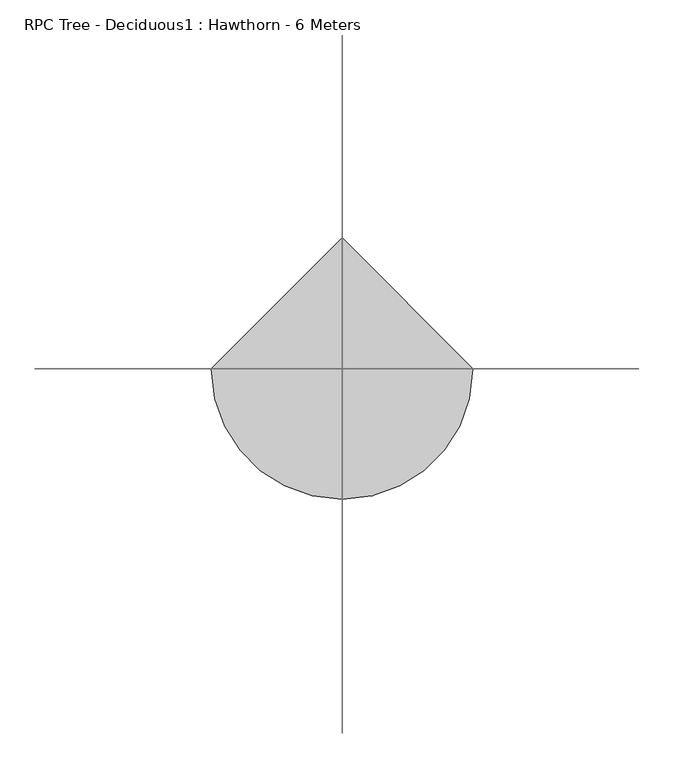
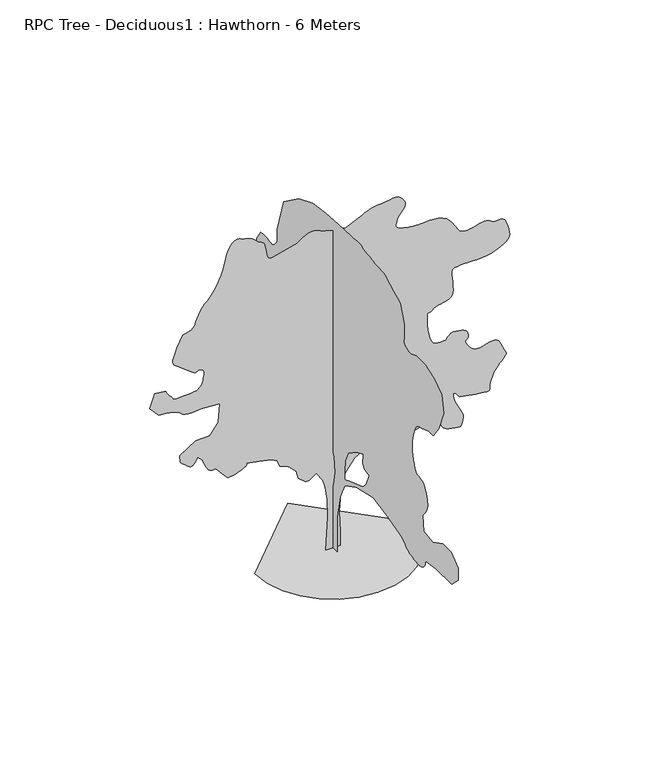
"""IFC4 building model written with IfcOpenShell, lengths in millimetres: geographic element geometry, RPC Tree - Deciduous1 : Hawthorn - 6 Meters."""

from ifc_helpers import new_model, si_unit, origin, place, context, project, spatial, triangles, source, transform, mapped, element, save


def rpc_tree_deciduous1_hawthorn_6_meters_6ab4ff8a(model_context):
    return source(origin(), model_context, "Body", "Tessellation", [
        triangles([(125.3016722, 0.0003108, 0.0152031), (-121.3314749, 0.0003108, 0.0152031), (-86.0977153, 0.0002761, 581.3634241), (-94.9063073, 0.0002583, 880.8471062), (-130.1392676, 0.0002446, 1109.8629238), (-165.3730272, 0.0002362, 1250.7967632), (-279.8797188, 0.0002268, 1409.3465332), (-394.3895897, 0.0002315, 1330.0707035), (-456.0475267, 0.000232, 1321.2626656), (-579.3634372, 0.0002257, 1426.9626091), (-614.5973694, 0.0002173, 1567.8964485), (-737.9132435, 0.00021, 1691.2123226), (-887.6551208, 0.0002063, 1752.870187), (-931.6970547, 0.0002, 1858.5701305), (-1028.5889603, 0.0001968, 1911.4201023), (-1231.1787746, 0.0001942, 1955.4620361), (-1433.7706238, 0.0001921, 1990.6940426), (-1432.1785698, 0.0001926, 1983.0680546), (-1432.3585007, 0.000193, 1974.9779961), (-1436.0825466, 0.0001936, 1965.9640114), (-1445.1225471, 0.0001942, 1955.5640648), (-1461.2485977, 0.0001949, 1943.3140858), (-1486.236462, 0.0001958, 1928.7540733), (-1521.8544914, 0.0001968, 1911.4201023), (-1561.5804096, 0.0001978, 1894.6000534), (-1598.0723682, 0.0001986, 1881.4761452), (-1631.8663811, 0.0001992, 1871.4360603), (-1663.5063103, 0.0001997, 1863.8600693), (-1693.5262802, 0.0002, 1858.1341106), (-1722.4662289, 0.0002003, 1853.6401989), (-1750.8703091, 0.0002005, 1849.7620926), (-1847.7622147, 0.0001942, 1955.4620361), (-1953.4620129, 0.0001869, 2078.7779102), (-1974.2120544, 0.0001871, 2075.2378647), (-1994.8840485, 0.0001872, 2073.0779675), (-2015.3979126, 0.0001872, 2073.6979877), (-2035.6979816, 0.0001869, 2078.4779285), (-2055.6780121, 0.0001863, 2088.7979382), (-2075.2579216, 0.0001852, 2106.0579311), (-2094.397887, 0.0001837, 2131.6178535), (-2111.737817, 0.000182, 2160.7979038), (-2126.2978294, 0.0001803, 2188.1177479), (-2138.5379253, 0.0001788, 2213.897715), (-2148.9378719, 0.0001773, 2238.4576984), (-2157.9578156, 0.0001759, 2262.0777683), (-2166.0378456, 0.0001746, 2285.0977295), (-2173.6777863, 0.0001732, 2307.7976521), (-2252.9377739, 0.0001685, 2387.0775513), (-2305.7976288, 0.0001732, 2307.7976521), (-2315.3377441, 0.0001741, 2292.9177464), (-2325.5977283, 0.0001749, 2279.4377552), (-2337.2176586, 0.0001755, 2268.7376816), (-2350.937606, 0.0001759, 2262.1777622), (-2367.4177048, 0.000176, 2261.1776779), (-2387.3776783, 0.0001756, 2267.1177223), (-2411.4975723, 0.0001748, 2281.3777531), (-2438.2175983, 0.0001736, 2301.5776829), (-2464.6574089, 0.0001723, 2323.3376919), (-2489.3774117, 0.000171, 2344.9376816), (-2511.0374268, 0.0001698, 2364.6776104), (-2528.2174828, 0.0001689, 2380.877639), (-2539.5374313, 0.0001682, 2391.8375805), (-2543.6174149, 0.000168, 2395.8775955), (-2552.4174591, 0.0001606, 2519.1973938), (-2288.177774, 0.0001506, 2686.5572365), (-2050.357988, 0.0001501, 2695.3572807), (-1909.420079, 0.0001391, 2880.3369781), (-1882.9940758, 0.0001202, 3197.4368088), (-2173.6777863, 0.0001186, 3223.8567078), (-2235.7378063, 0.000119, 3216.5568626), (-2296.4977604, 0.0001194, 3210.816806), (-2354.6376709, 0.0001195, 3208.1367371), (-2408.8576172, 0.0001194, 3210.0967918), (-2457.8174194, 0.0001189, 3218.2166451), (-2500.2375046, 0.000118, 3234.0369003), (-2534.8173706, 0.0001165, 3259.0967079), (-2569.6373383, 0.0001149, 3285.9566963), (-2612.7774376, 0.0001137, 3306.7967033), (-2662.8572296, 0.0001127, 3322.6567818), (-2718.4773811, 0.000112, 3334.4967567), (-2778.2571625, 0.0001115, 3343.3165672), (-2840.8172974, 0.0001111, 3350.1565567), (-2904.7569992, 0.0001107, 3355.9765503), (-3054.4969872, 0.0001008, 3523.336393), (-2966.4168983, 8.71e-05, 3752.3561348), (-2790.2573021, 8.82e-05, 3734.7362801), (-2778.8771828, 8.94e-05, 3714.0163239), (-2767.1973724, 9.06e-05, 3693.5164124), (-2754.8972511, 9.18e-05, 3673.4964134), (-2741.6573616, 9.3e-05, 3654.1563148), (-2727.1971977, 9.41e-05, 3635.7365089), (-2711.1973022, 9.51e-05, 3618.4962822), (-2693.3574028, 9.6e-05, 3602.6164375), (-2679.9774055, 9.69e-05, 3587.6365379), (-2673.6972656, 9.78e-05, 3573.4365326), (-2668.6374001, 9.85e-05, 3560.7765495), (-2658.9574677, 9.91e-05, 3550.436483), (-2638.797361, 9.96e-05, 3543.176461), (-2602.2972633, 9.98e-05, 3539.756321), (-2543.6174149, 9.97e-05, 3540.9565384), (-2478.5774895, 9.95e-05, 3544.7365402), (-2425.5375584, 9.93e-05, 3548.5165421), (-2382.5176552, 9.9e-05, 3552.276487), (-2347.5176113, 9.88e-05, 3556.0564888), (-2318.5376942, 9.86e-05, 3559.8364906), (-2293.5377666, 9.84e-05, 3563.6164925), (-2270.557774, 9.81e-05, 3567.3764374), (-2248.0576939, 9.71e-05, 3584.4564995), (-2226.497818, 9.61e-05, 3602.0763542), (-2206.7778008, 9.5e-05, 3620.7763756), (-2189.8177895, 9.37e-05, 3641.0762993), (-2176.5777546, 9.24e-05, 3663.5563225), (-2167.937875, 9.09e-05, 3688.7164146), (-2164.8578304, 8.92e-05, 3717.1164253), (-2161.7378174, 8.73e-05, 3748.6563606), (-2154.8978279, 8.54e-05, 3781.7363182), (-2148.2178577, 8.34e-05, 3814.6561111), (-2145.5578457, 8.15e-05, 3845.7361908), (-2150.7379074, 7.99e-05, 3873.2560226), (-2167.6378933, 7.86e-05, 3895.556115), (-2200.0978306, 7.77e-05, 3910.9162239), (-2232.6577618, 7.75e-05, 3914.3561302), (-2252.4378044, 7.79e-05, 3907.1559883), (-2267.1177223, 7.85e-05, 3897.0359665), (-2284.4377407, 7.88e-05, 3891.6961761), (-2312.0577118, 7.84e-05, 3898.8361473), (-2357.7175701, 7.68e-05, 3926.1559914), (-2429.1175724, 7.35e-05, 3981.3758766), (-2508.3375916, 6.98e-05, 4042.8759018), (-2572.1575333, 6.71e-05, 4088.3559746), (-2620.2575043, 6.49e-05, 4124.4357491), (-2652.317466, 6.29e-05, 4157.7558083), (-2668.0572029, 6.07e-05, 4194.8956924), (-2667.1572578, 5.79e-05, 4242.5358078), (-2649.3173584, 5.4e-05, 4307.2757515), (-2623.9174553, 4.99e-05, 4376.6157051), (-2600.3773224, 4.64e-05, 4434.8554642), (-2578.3574455, 4.35e-05, 4483.8553802), (-2557.5973755, 4.1e-05, 4525.4554573), (-2537.7375412, 3.89e-05, 4561.5154655), (-2518.4974365, 3.7e-05, 4593.8754089), (-2499.5773705, 3.51e-05, 4624.3752914), (-2463.8574577, 3.47e-05, 4632.1352829), (-2428.97761, 3.41e-05, 4641.115258), (-2395.7976585, 3.35e-05, 4652.5753143), (-2365.1576683, 3.25e-05, 4667.7354355), (-2337.9176159, 3.14e-05, 4687.8153145), (-2314.9177116, 2.98e-05, 4714.0552826), (-2296.977673, 2.78e-05, 4747.6953804), (-2284.1977844, 2.58e-05, 4781.6552261), (-2274.4977951, 2.41e-05, 4810.0552368), (-2265.5577885, 2.25e-05, 4835.9952232), (-2255.0777596, 2.09e-05, 4862.535173), (-2240.7377918, 1.91e-05, 4892.7949539), (-2220.2577919, 1.69e-05, 4929.8147873), (-2191.2778748, 1.41e-05, 4976.7148315), (-2161.0778286, 1.16e-05, 5019.515126), (-2136.2778889, 9.9e-06, 5047.3948196), (-2113.6378464, 8.7e-06, 5068.0150726), (-2089.897871, 7.4e-06, 5089.0951813), (-2061.8578674, 5.7e-06, 5118.3346756), (-2026.2580055, 3e-06, 5163.4545959), (-1979.8859814, -1.1e-06, 5232.1550537), (-1932.1720333, -5.9e-06, 5312.174588), (-1893.7041779, -1.03e-05, 5386.9543259), (-1862.9381779, -1.45e-05, 5457.7343079), (-1838.3361912, -1.86e-05, 5525.734227), (-1818.3561607, -2.26e-05, 5592.1941238), (-1801.4602444, -2.65e-05, 5658.3546204), (-1786.1021702, -3.05e-05, 5725.4144806), (-1767.3822372, -3.45e-05, 5792.7539749), (-1742.0362553, -3.83e-05, 5856.3942764), (-1710.9882957, -4.17e-05, 5912.6338669), (-1675.1643196, -4.43e-05, 5957.7741348), (-1635.4883984, -4.62e-05, 5988.1339096), (-1592.8863476, -4.69e-05, 5999.9942322), (-1548.2784599, -4.62e-05, 5989.6739319), (-1504.0324688, -4.51e-05, 5970.7942703), (-1461.7865009, -4.43e-05, 5957.3142792), (-1421.3926003, -4.36e-05, 5945.9940399), (-1382.6926369, -4.29e-05, 5933.5942154), (-1345.5326958, -4.19e-05, 5916.8743057), (-1309.7607513, -4.05e-05, 5892.5943924), (-1275.2207085, -3.84e-05, 5857.5540894), (-1243.3507061, -3.65e-05, 5826.0542679), (-1215.4888166, -3.55e-05, 5809.5139984), (-1191.3227772, -3.5e-05, 5800.2343323), (-1170.5488272, -3.44e-05, 5790.4744629), (-1152.8548491, -3.33e-05, 5772.5540451), (-1137.9348295, -3.13e-05, 5738.754364), (-1125.4789038, -2.79e-05, 5681.3741455), (-1114.9509127, -2.4e-05, 5616.0542953), (-1104.8848846, -2.08e-05, 5563.1941498), (-1093.5849203, -1.84e-05, 5522.3745483), (-1079.3588991, -1.66e-05, 5493.0943588), (-1060.5089596, -1.56e-05, 5474.9146545), (-1035.3429811, -1.51e-05, 5467.3546509), (-1002.1630297, -1.53e-05, 5469.9742584), (-596.9814025, -2.16e-05, 5575.674202), (-549.7794508, -2.36e-05, 5609.2744766), (-502.5034847, -2.54e-05, 5640.5545441), (-455.0715325, -2.7e-05, 5667.1941971), (-407.4095798, -2.82e-05, 5686.9342712), (-359.4376534, -2.88e-05, 5697.3940979), (-311.0817023, -2.88e-05, 5696.3342789), (-262.2637337, -2.79e-05, 5681.3741455), (-213.9597781, -2.66e-05, 5660.5341385), (-167.0418388, -2.56e-05, 5642.9142838), (-121.2796793, -2.47e-05, 5627.9942642), (-76.4421273, -2.39e-05, 5615.2345779), (-32.2977674, -2.33e-05, 5604.0742126), (11.3841491, -2.27e-05, 5594.0143616), (54.8349433, -2.21e-05, 5584.4945938), (213.3857942, -2.1e-05, 5566.8741577), (460.0175242, -2.73e-05, 5672.5741013), (496.0215039, -2.87e-05, 5695.074472), (532.8734696, -3e-05, 5716.6342026), (571.4194453, -3.11e-05, 5736.3545105), (612.5073807, -3.22e-05, 5753.3145218), (656.9853344, -3.29e-05, 5766.5544113), (705.7013288, -3.35e-05, 5775.1940002), (759.5012426, -3.36e-05, 5778.2740448), (817.8971695, -3.39e-05, 5782.434256), (878.2971165, -3.45e-05, 5792.1342453), (938.3890881, -3.51e-05, 5803.2341492), (995.8610161, -3.56e-05, 5811.5539902), (1048.4029398, -3.57e-05, 5812.9341385), (1093.7029364, -3.51e-05, 5803.2341492), (1129.4508997, -3.36e-05, 5778.2740448), (1157.3388777, -3.17e-05, 5745.7545181), (1179.9888033, -2.99e-05, 5715.5540359), (1196.4747883, -2.82e-05, 5686.7540497), (1205.8747959, -2.65e-05, 5658.3941528), (1207.2607578, -2.48e-05, 5629.5744003), (1199.7107826, -2.3e-05, 5599.3744995), (1182.2988367, -2.1e-05, 5566.8741577), (1160.7288597, -1.93e-05, 5537.2945679), (1141.3148558, -1.79e-05, 5514.6343231), (1124.0568975, -1.68e-05, 5496.1546371), (1108.9568745, -1.58e-05, 5479.0545181), (1096.0149319, -1.47e-05, 5460.5544846), (1085.2288897, -1.34e-05, 5437.9145874), (1076.5988932, -1.16e-05, 5408.31465), (1067.5089684, -9.7e-06, 5376.3945053), (1057.8029474, -8e-06, 5348.1747162), (1051.1769711, -6.5e-06, 5323.0343903), (1051.3309587, -5.2e-06, 5300.3549606), (1061.9629406, -3.9e-06, 5279.5347198), (1086.7689119, -2.7e-06, 5259.9347534), (1129.4508997, -1.6e-06, 5240.9545166), (1183.1208069, -6e-07, 5224.6549301), (1237.4087723, 1e-07, 5212.9748291), (1290.7726662, 5e-07, 5205.13461), (1341.6707222, 8e-07, 5200.394783), (1388.5626274, 9e-07, 5197.9548157), (1429.9085049, 1e-06, 5197.0548706), (1464.1665882, 1e-06, 5196.9147629), (1502.8665516, 9e-07, 5199.0547485), (1555.8964542, 6e-07, 5203.1946121), (1619.2484013, 5e-07, 5205.9345612), (1688.9182766, 6e-07, 5203.914917), (1760.9002201, 1.2e-06, 5193.7149582), (1831.1861916, 2.5e-06, 5171.9546585), (1895.7741096, 4.7e-06, 5135.2551544), (1949.6500362, 7.6e-06, 5086.7546265), (1992.4340527, 1.07e-05, 5034.0747025), (2027.0579567, 1.39e-05, 4980.6349411), (2056.4379948, 1.69e-05, 4929.8147873), (2083.497971, 1.96e-05, 4885.0151962), (2111.1778221, 2.17e-05, 4849.5952652), (2142.3978642, 2.31e-05, 4826.9751343), (2177.4178196, 2.37e-05, 4815.7150658), (2214.2577221, 2.4e-05, 4811.4153282), (2252.6577038, 2.39e-05, 4812.8751228), (2292.2776691, 2.35e-05, 4818.955275), (2332.8176365, 2.3e-05, 4828.5151566), (2373.997681, 2.23e-05, 4840.3751884), (2415.4576504, 2.15e-05, 4853.3950333), (2453.1174156, 2.1e-05, 4860.715226), (2490.1375397, 2.07e-05, 4866.6552704), (2525.9373894, 2.05e-05, 4869.8152519), (2559.8975258, 2.06e-05, 4868.8150223), (2591.3772903, 2.1e-05, 4862.2552483), (2619.777301, 2.18e-05, 4848.7752571), (2644.4772469, 2.31e-05, 4826.9751343), (2672.0174263, 2.4e-05, 4810.9752388), (2707.2373695, 2.41e-05, 4810.0752937), (2747.0971458, 2.37e-05, 4815.6551857), (2788.4972351, 2.35e-05, 4819.0552689), (2828.3573021, 2.4e-05, 4811.695253), (2863.5772453, 2.56e-05, 4784.9152016), (2891.1171341, 2.88e-05, 4730.075235), (2912.8169724, 3.29e-05, 4661.5954033), (2930.9772011, 3.66e-05, 4599.5753517), (2943.1171577, 3.99e-05, 4544.0354279), (2946.7971657, 4.28e-05, 4494.9555748), (2939.5170868, 4.54e-05, 4452.3555588), (2918.8570107, 4.75e-05, 4416.2156136), (2882.2970329, 4.93e-05, 4386.5555054), (2838.617141, 5.09e-05, 4360.2556572), (2796.0171249, 5.24e-05, 4334.7357033), (2751.257357, 5.38e-05, 4310.7557716), (2701.0973373, 5.51e-05, 4289.0756996), (2642.317495, 5.62e-05, 4270.4756721), (2571.67733, 5.71e-05, 4255.7358742), (2485.9375053, 5.77e-05, 4245.6158524), (2402.1176216, 5.8e-05, 4240.515873), (2336.3177135, 5.81e-05, 4239.2557755), (2283.9377712, 5.8e-05, 4240.3158852), (2240.3177593, 5.79e-05, 4242.1358322), (2200.8778702, 5.79e-05, 4243.175885), (2160.9778347, 5.79e-05, 4241.9157875), (2115.9778198, 5.82e-05, 4236.8158081), (2072.5979095, 5.86e-05, 4231.3957901), (2039.7179398, 5.88e-05, 4227.97565), (2015.8980274, 5.9e-05, 4223.1756523), (1999.8039516, 5.96e-05, 4213.5957138), (1990.0199558, 6.07e-05, 4195.8558083), (1985.166037, 6.24e-05, 4166.5558525), (1983.8560879, 6.51e-05, 4122.3158203), (1987.4000576, 6.86e-05, 4062.8560776), (1994.9500328, 7.27e-05, 3994.0160934), (2001.877953, 7.7e-05, 3921.4559875), (2003.5779945, 8.12e-05, 3850.9161072), (1995.4120686, 8.5e-05, 3788.0763382), (1972.7619976, 8.79e-05, 3738.6363327), (1931.0061161, 8.97e-05, 3708.3163811), (1880.2881363, 9.07e-05, 3692.3161949), (1833.7302223, 9.14e-05, 3680.6363846), (1791.1781685, 9.2e-05, 3671.0962692), (1752.4782051, 9.25e-05, 3661.5762108), (1717.4762718, 9.32e-05, 3649.8964005), (1686.0162735, 9.42e-05, 3633.896505), (1657.9483646, 9.55e-05, 3611.4164818), (1633.6543533, 9.66e-05, 3593.8762733), (1613.5224426, 9.69e-05, 3588.6763), (1597.3943573, 9.69e-05, 3587.616481), (1585.1203972, 9.72e-05, 3582.5563248), (1576.5424324, 9.83e-05, 3565.3364456), (1571.5084373, 0.0001005, 3527.756472), (1569.864497, 0.0001044, 3461.6764938), (1573.4604984, 0.0001095, 3377.1767097), (1583.5284885, 0.0001145, 3292.4967041), (1598.9864113, 0.0001193, 3211.8368019), (1618.7603497, 0.0001236, 3139.3368668), (1641.7704277, 0.0001272, 3079.1768761), (1666.9363335, 0.0001298, 3035.4969841), (1693.1822605, 0.0001312, 3012.4571114), (1723.330275, 0.0001317, 3003.6570671), (1758.5641708, 0.000132, 2999.1570511), (1795.3382343, 0.0001321, 2997.8969536), (1830.1102398, 0.000132, 2998.7968987), (1859.332148, 0.0001319, 3000.7770103), (1879.4660934, 0.0001318, 3002.757122), (1886.9660717, 0.0001317, 3003.6570671), (1889.7641567, 0.0001313, 3010.3970627), (1898.5720493, 0.0001303, 3027.4768341), (1914.0061363, 0.000129, 3050.096965), (1936.6820778, 0.0001276, 3073.4969902), (1967.2159698, 0.0001264, 3092.8969688), (2006.2179497, 0.0001258, 3103.4969032), (2054.3179207, 0.000126, 3100.5369095), (2103.9179455, 0.0001266, 3090.4168877), (2146.8778233, 0.0001271, 3081.0770508), (2183.0578823, 0.0001278, 3070.037027), (2212.2978127, 0.0001287, 3054.8370827), (2234.4777088, 0.00013, 3032.996846), (2249.3977283, 0.0001318, 3002.076931), (2256.9177635, 0.0001344, 2959.6170227), (2254.0977322, 0.0001366, 2921.217041), (2241.8577816, 0.0001379, 2899.457032), (2225.9378231, 0.0001387, 2887.2772522), (2212.0177425, 0.0001393, 2877.537149), (2205.8178303, 0.0001401, 2863.1772697), (2212.9977699, 0.0001417, 2837.1172325), (2239.2977634, 0.0001443, 2792.25718), (2275.0777016, 0.0001472, 2743.8171135), (2307.5976643, 0.0001492, 2710.0174324), (2337.9776413, 0.0001505, 2688.2373665), (2367.297654, 0.0001513, 2675.8773651), (2396.5976097, 0.0001516, 2670.2774162), (2426.9775867, 0.0001517, 2668.8373878), (2459.4975494, 0.0001517, 2668.9373817), (2499.7974152, 0.0001512, 2676.6372025), (2549.9574348, 0.0001502, 2693.8971954), (2605.7973404, 0.0001491, 2711.9173164), (2663.1973251, 0.0001485, 2721.9373444), (2717.9774117, 0.0001489, 2715.157235), (2765.9770981, 0.0001509, 2682.7972916), (2803.037336, 0.0001548, 2616.0775269), (2832.277121, 0.0001592, 2542.2773804), (2857.9770058, 0.0001623, 2490.5174583), (2877.6772568, 0.0001645, 2454.7574318), (2888.8972115, 0.000166, 2429.0376354), (2889.1971931, 0.0001673, 2407.297538), (2876.0570068, 0.0001687, 2383.5776196), (2847.0770897, 0.0001706, 2351.8376965), (2812.9971931, 0.0001727, 2316.8376526), (2785.5773552, 0.0001745, 2286.7977711), (2763.6571815, 0.0001762, 2260.8776962), (2746.1573776, 0.0001776, 2238.2577106), (2731.9771385, 0.0001789, 2218.1178062), (2720.0174034, 0.0001802, 2199.6378296), (2709.1573105, 0.0001814, 2181.9578041), (2706.4571846, 0.0001811, 2183.897802), (2702.7771767, 0.000181, 2182.7778122), (2697.1571709, 0.0001813, 2175.6177841), (2688.6172852, 0.0001822, 2159.377787), (2676.1773468, 0.0001838, 2131.0378017), (2658.8374168, 0.0001864, 2087.5578976), (2635.6774933, 0.00019, 2025.9379669), (2618.2175125, 0.0001938, 1963.0380272), (2613.5372749, 0.0001965, 1916.4780785), (2613.9372505, 0.0001985, 1884.2501038), (2611.7373848, 0.0001996, 1864.3481209), (2599.1974525, 0.0002002, 1854.7702171), (2568.6373993, 0.0002003, 1853.5101196), (2512.3574043, 0.0002, 1858.5701305), (2443.7176987, 0.0001995, 1866.3761948), (2380.6176258, 0.000199, 1874.6461842), (2322.1376198, 0.0001985, 1883.3001617), (2267.3576786, 0.000198, 1892.2621147), (2215.3578003, 0.0001974, 1901.4560303), (2165.2178375, 0.0001969, 1910.8041515), (2115.9778198, 0.0001963, 1920.2281403), (2084.2979221, 0.000194, 1959.0060059), (2054.9979664, 0.000192, 1992.6199425), (2030.4580399, 0.0001906, 2015.917939), (2013.098053, 0.0001901, 2023.7180443), (2005.2979477, 0.0001909, 2010.877985), (2009.4379566, 0.0001932, 1972.2300533), (2027.8980217, 0.0001974, 1902.6120644), (2057.4379337, 0.0002022, 1821.9241116), (2090.4979797, 0.0002063, 1752.1761887), (2123.1179363, 0.00021, 1691.3662376), (2151.2577885, 0.0002132, 1637.4884216), (2170.9378372, 0.0002161, 1588.5424267), (2178.1177769, 0.0002188, 1542.5244507), (2168.8378201, 0.0002215, 1497.4285114), (2155.0377903, 0.0002239, 1457.3944725), (2148.0377815, 0.0002257, 1427.3726131), (2142.7179028, 0.0002269, 1406.5985905), (2134.0178524, 0.0002277, 1394.2965797), (2116.8379417, 0.0002279, 1389.7006393), (2086.0979576, 0.0002278, 1392.0365433), (2036.6979206, 0.0002273, 1400.5366058), (1981.4940228, 0.0002266, 1411.5285221), (1935.8340191, 0.000226, 1422.6746441), (1898.4941471, 0.0002252, 1435.2065826), (1868.244104, 0.0002243, 1450.35653), (1843.8482094, 0.0002232, 1469.3606026), (1824.0741257, 0.0002218, 1493.4485218), (1807.690242, 0.0002199, 1523.8545147), (1797.340147, 0.000218, 1556.6484432), (1793.9262566, 0.0002162, 1586.6684132), (1793.5922653, 0.0002146, 1613.2983284), (1792.4882629, 0.0002133, 1635.9223835), (1786.7602695, 0.0002122, 1653.924337), (1772.5602642, 0.0002114, 1666.6863487), (1746.0322323, 0.000211, 1673.5963921), (1714.6242657, 0.0002108, 1676.6002785), (1687.8402901, 0.0002107, 1678.2183483), (1664.9084049, 0.0002107, 1678.6803841), (1645.056419, 0.0002107, 1678.2183483), (1627.5183907, 0.0002108, 1677.0623142), (1611.5183498, 0.0002109, 1675.4443897), (1596.2903549, 0.000211, 1673.5963921), (1384.8906132, 0.0002157, 1594.320417), (1243.9567738, 0.00021, 1691.2123226), (1087.3329037, 0.0002129, 1634.2184177), (1110.9088629, 0.0002139, 1619.9223427), (1131.188875, 0.0002148, 1605.1283329), (1144.8768476, 0.0002159, 1589.3384537), (1148.6768337, 0.000217, 1572.0524448), (1139.2928862, 0.0002182, 1552.772517), (1113.4308746, 0.0002195, 1531.0004448), (1067.7929626, 0.000221, 1506.2365494), (1018.4869606, 0.0002223, 1484.5125847), (980.7350498, 0.0002231, 1471.568462), (949.9190529, 0.0002234, 1466.48447), (921.4150515, 0.0002232, 1468.3324677), (890.5991272, 0.0002228, 1476.192453), (852.8491785, 0.000222, 1489.1345409), (803.5431765, 0.000221, 1506.2365494), (574.5254331, 0.0002168, 1576.7044865), (363.125655, 0.0002236, 1462.196505), (204.5757942, 0.0002362, 1250.7967632), (151.7268489, 0.0002451, 1101.0548859), (134.1096648, 0.0002562, 916.0810747), (107.6852966, 0.0002745, 607.789391), (125.3016722, 0.0002966, 237.8397703), (-9.68e-05, -124.0064751, 0.0126444), (-9.68e-05, 131.4368719, 0.0126596), (-7.97e-05, 139.9516592, 553.4734477), (-6.83e-05, 182.5254141, 834.4611294), (-5.69e-05, 318.7616841, 1115.4489201), (-5.13e-05, 446.4835393, 1302.7726604), (-4.56e-05, 667.867301, 1456.038596), (-3.42e-05, 1051.0329391, 1626.334306), (-2.28e-05, 1502.3164398, 1677.4223213), (-2.28e-05, 1766.2741653, 1515.6425159), (-2.28e-05, 1962.114101, 1490.0985809), (-1.71e-05, 2072.7978973, 1702.9682911), (-1.14e-05, 2251.6177963, 1728.5122261), (-5.7e-06, 2626.2574287, 1754.0563065), (0.0, 2847.6572868, 1771.0862263), (5.7e-06, 2958.337159, 1856.2340813), (5.7e-06, 2949.8370964, 1992.4699516), (1.14e-05, 3086.0569794, 2077.617952), (1.14e-05, 3124.1767456, 2085.0179363), (1.14e-05, 3161.0169388, 2093.0178841), (1.14e-05, 3195.31688, 2102.197847), (1.71e-05, 3225.8167625, 2113.1579338), (1.71e-05, 3251.2768364, 2126.5178741), (1.71e-05, 3270.3768333, 2142.8578651), (1.71e-05, 3281.8967697, 2162.7578133), (1.71e-05, 3288.6966454, 2186.637751), (1.71e-05, 3294.6166328, 2214.0978481), (1.71e-05, 3299.776783, 2244.5377052), (2.28e-05, 3304.3366791, 2277.357795), (2.28e-05, 3308.4567764, 2311.9577179), (2.28e-05, 3312.2966583, 2347.7577129), (2.28e-05, 3315.9566093, 2384.1576714), (2.85e-05, 3171.2168976, 2562.9575134), (2.28e-05, 2856.1570587, 2579.9974617), (1.71e-05, 2668.8373878, 2443.7575218), (1.71e-05, 2657.3973885, 2441.4974854), (1.71e-05, 2627.3373047, 2436.0975243), (1.71e-05, 2585.0573273, 2429.6775673), (1.14e-05, 2536.9774132, 2424.2975178), (1.14e-05, 2489.4774055, 2422.0376266), (1.14e-05, 2448.9976089, 2424.9775635), (1.14e-05, 2421.9175758, 2435.2375477), (1.14e-05, 2403.4175423, 2452.5575661), (1.14e-05, 2384.4775646, 2474.8175446), (1.14e-05, 2365.1576683, 2501.1374496), (1.14e-05, 2345.5577019, 2530.757444), (1.71e-05, 2325.7176338, 2562.8374626), (1.71e-05, 2305.7377487, 2596.5574974), (1.71e-05, 2285.6777813, 2631.0774834), (2.28e-05, 2243.0978222, 2843.957222), (2.85e-05, 2421.9175758, 2980.1771049), (3.99e-05, 2558.1575157, 3210.0767349), (3.99e-05, 2336.7576576, 3414.4366447), (3.42e-05, 2106.8578823, 3337.7965553), (2.85e-05, 1962.114101, 3218.5968544), (2.85e-05, 1800.3322609, 3329.2967834), (3.42e-05, 1800.3322609, 3516.6164543), (4.56e-05, 1953.5980511, 3686.9162338), (4.56e-05, 1986.3419827, 3705.1363426), (4.56e-05, 2018.4980141, 3723.1962868), (4.56e-05, 2049.437986, 3740.9763062), (4.56e-05, 2078.6178909, 3758.2961792), (4.56e-05, 2105.3979424, 3775.0361458), (5.13e-05, 2129.1979431, 3791.016275), (5.13e-05, 2149.4378414, 3806.1162254), (5.13e-05, 2165.1977806, 3827.1762772), (5.13e-05, 2176.4978176, 3859.8362022), (5.13e-05, 2184.0778782, 3902.1961166), (5.69e-05, 2188.6578312, 3952.2759087), (5.69e-05, 2191.0178616, 4008.1960419), (5.69e-05, 2191.8977497, 4067.956057), (5.69e-05, 2192.0178005, 4129.6758362), (6.26e-05, 2081.3178715, 4299.9756157), (6.26e-05, 2077.3179703, 4300.8956177), (6.26e-05, 2066.0379902, 4303.1556541), (6.26e-05, 2048.4780155, 4306.015654), (6.26e-05, 2025.7179222, 4308.7157799), (6.26e-05, 1998.7800316, 4310.51567), (6.26e-05, 1968.7160236, 4310.6956009), (6.26e-05, 1936.5700207, 4308.4957352), (6.26e-05, 1902.4120766, 4303.5556297), (5.69e-05, 1866.6141163, 4297.1156158), (5.69e-05, 1830.6681999, 4290.8357666), (5.69e-05, 1796.0642075, 4286.3357506), (5.69e-05, 1764.2882401, 4285.2756409), (5.69e-05, 1736.8322124, 4289.2756874), (5.69e-05, 1715.1862953, 4299.9756157), (5.69e-05, 1697.6843113, 4315.3156677), (5.69e-05, 1681.5242512, 4331.9957542), (5.69e-05, 1666.480402, 4349.7955399), (5.69e-05, 1652.3303936, 4368.4955612), (5.69e-05, 1638.8504025, 4387.8557167), (5.69e-05, 1625.8163143, 4407.6556709), (5.69e-05, 1613.0083752, 4427.6954361), (6.83e-05, 1604.4923252, 4640.5554085), (7.97e-05, 1425.6826, 5236.594899), (8.54e-05, 991.4290192, 5551.6547379), (8.54e-05, 582.7194097, 5721.9344604), (7.97e-05, 208.0697851, 5773.0342484), (7.4e-05, -158.0654427, 5798.5739685), (6.83e-05, -515.6854926, 5815.6142075), (6.83e-05, -547.0394654, 5817.3943314), (6.83e-05, -593.435398, 5821.5539612), (6.83e-05, -649.0673584, 5826.333902), (6.83e-05, -708.1253088, 5829.8941498), (6.83e-05, -764.7992477, 5830.4941132), (6.26e-05, -813.2811722, 5826.333902), (6.26e-05, -847.7631517, 5815.6142075), (6.26e-05, -883.2371492, 5801.9941086), (6.26e-05, -934.4990639, 5790.1942474), (6.26e-05, -995.4430183, 5779.8541809), (6.26e-05, -1059.9609552, 5770.7140411), (5.69e-05, -1121.9468519, 5762.4744278), (5.69e-05, -1175.2948311, 5754.8341965), (5.69e-05, -1213.8967627, 5747.4945282), (5.69e-05, -1249.2967094, 5742.4140244), (5.69e-05, -1294.8247444, 5740.3345001), (5.69e-05, -1347.0546959, 5738.9944656), (5.13e-05, -1402.562645, 5736.1742889), (5.13e-05, -1457.9206032, 5729.6142242), (5.13e-05, -1509.7045063, 5717.0940582), (5.13e-05, -1554.4884007, 5696.3941589), (5.13e-05, -1597.8563931, 5670.1143677), (4.56e-05, -1647.0343506, 5642.4741943), (4.56e-05, -1701.0522743, 5613.7346695), (4.56e-05, -1758.9422001, 5584.0946182), (3.99e-05, -1819.7381985, 5553.7743759), (3.99e-05, -1882.4680904, 5523.0146255), (3.99e-05, -1946.1679813, 5492.0345398), (2.85e-05, -2065.3780014, 5194.0347061), (1.71e-05, -2056.8578819, 4921.5548264), (1.71e-05, -2049.8779301, 4908.7149124), (1.71e-05, -2044.8379761, 4895.5151367), (1.71e-05, -2043.6780178, 4881.5549423), (1.71e-05, -2048.3179962, 4866.4951057), (1.71e-05, -2060.7179661, 4849.93507), (1.71e-05, -2082.7779568, 4831.5152641), (1.71e-05, -2116.4578777, 4810.855188), (1.71e-05, -2156.8578827, 4794.43526), (1.14e-05, -2197.6978317, 4787.8153152), (1.14e-05, -2238.8977879, 4789.4152176), (1.14e-05, -2280.3977257, 4797.5551277), (1.14e-05, -2322.1376198, 4810.6150864), (1.14e-05, -2364.0176216, 4826.9550774), (1.14e-05, -2405.9576488, 4844.9150276), (5.7e-06, -2669.9172638, 4844.9150276), (0.0, -2933.8770241, 4759.7751663), (-5.7e-06, -3146.7567627, 4606.5153351), (-1.71e-05, -3197.8367844, 4308.4957352), (-2.28e-05, -3053.0970726, 3950.8759941), (-2.85e-05, -2899.8171844, 3737.9962555), (-2.85e-05, -2872.2371819, 3737.8561478), (-2.85e-05, -2843.3970818, 3736.8163857), (-2.85e-05, -2812.0173111, 3733.976152), (-2.85e-05, -2776.837191, 3728.4761971), (-2.85e-05, -2736.5972054, 3719.3761711), (-2.85e-05, -2690.0372566, 3705.8362999), (-2.28e-05, -2635.8574242, 3686.9162338), (-2.28e-05, -2581.5174271, 3668.6964157), (-2.28e-05, -2534.7775475, 3655.8364449), (-2.28e-05, -2494.8773666, 3645.3562706), (-2.28e-05, -2461.0974518, 3634.2764236), (-2.28e-05, -2432.6775295, 3619.6363289), (-2.28e-05, -2408.8775288, 3598.4364601), (-2.28e-05, -2388.9376122, 3567.696476), (-2.85e-05, -2369.4175827, 3523.5965515), (-2.85e-05, -2348.577721, 3467.1165688), (-2.85e-05, -2328.1576012, 3402.5966698), (-2.85e-05, -2309.9976631, 3334.356649), (-3.42e-05, -2295.8377716, 3266.7165916), (-3.42e-05, -2287.4977283, 3203.9768166), (-3.42e-05, -2286.7576572, 3150.4768845), (-3.99e-05, -2293.8377483, 3095.7569687), (-3.99e-05, -2306.8577385, 3030.7769234), (-3.99e-05, -2324.5177071, 2961.917173), (-4.56e-05, -2345.4376511, 2895.5770363), (-4.56e-05, -2368.2975929, 2838.1971085), (-5.13e-05, -2391.7576435, 2796.1371758), (-5.13e-05, -2414.477623, 2775.837252), (-5.13e-05, -2441.5375992, 2770.1771324), (-5.13e-05, -2476.6374916, 2765.997155), (-5.13e-05, -2516.3574509, 2760.6373077), (-5.13e-05, -2557.2773369, 2751.3971741), (-5.13e-05, -2595.9374771, 2735.6173233), (-5.69e-05, -2628.9572639, 2710.5973389), (-5.69e-05, -2652.8973724, 2673.6574425), (-5.69e-05, -2671.4572861, 2630.8373817), (-5.69e-05, -2689.8773827, 2589.6372803), (-6.26e-05, -2706.9571541, 2549.6574532), (-6.26e-05, -2721.5173119, 2510.3973495), (-6.26e-05, -2732.337291, 2471.4575752), (-6.26e-05, -2738.2372215, 2432.3576363), (-6.83e-05, -2738.0372337, 2392.6575886), (-6.83e-05, -2731.1571304, 2353.7576374), (-6.83e-05, -2718.4773811, 2317.0976658), (-6.83e-05, -2700.9572296, 2282.2977551), (-6.83e-05, -2679.557373, 2248.9776958), (-6.83e-05, -2655.2574028, 2216.7777718), (-6.83e-05, -2629.0174347, 2185.3378304), (-6.83e-05, -2601.7972939, 2154.257896), (-7.97e-05, -2618.8372421, 1881.7781616), (-8.54e-05, -2891.3171219, 1847.7181767), (-8.54e-05, -3172.2967735, 1992.4699516), (-8.54e-05, -3419.2165855, 1992.4699516), (-9.68e-05, -3615.0563759, 1830.6901463), (-0.0001025, -3623.5764954, 1626.334306), (-0.0001025, -3427.736705, 1439.0105656), (-9.68e-05, -2967.9371544, 1430.4945156), (-9.68e-05, -2678.4373833, 1387.9206608), (-9.68e-05, -2670.7773857, 1351.6526711), (-9.68e-05, -2660.8573517, 1316.7247158), (-9.68e-05, -2646.4974724, 1284.4787189), (-9.68e-05, -2625.4173637, 1256.2526802), (-9.68e-05, -2595.3973938, 1233.3888142), (-9.68e-05, -2554.2173492, 1217.228754), (-9.68e-05, -2499.6375412, 1209.1107903), (-9.68e-05, -2441.0975098, 1207.9187845), (-9.68e-05, -2388.9576691, 1211.0467913), (-9.68e-05, -2342.3376949, 1217.6007517), (-9.11e-05, -2300.3376423, 1226.6867523), (-9.11e-05, -2262.0577114, 1237.410807), (-9.11e-05, -2226.6177235, 1248.8787117), (-9.11e-05, -2193.0978218, 1260.1988056), (-9.11e-05, -2158.857906, 1275.838694), (-9.11e-05, -2122.5378845, 1298.7766834), (-8.54e-05, -2085.1779556, 1325.8846218), (-8.54e-05, -2047.8178814, 1354.0366825), (-8.54e-05, -2011.4980053, 1380.1006439), (-8.54e-05, -1977.2740768, 1400.9546036), (-8.54e-05, -1946.1679813, 1413.4645958), (-7.4e-05, -1545.9743855, 1524.1584206), (-6.83e-05, -1171.3228352, 1592.2763557), (-6.26e-05, -668.9513191, 1473.0685158), (-6.26e-05, -336.8756584, 1294.2586452), (-6.83e-05, -209.1537851, 1030.3009924), (-7.97e-05, -124.0064751, 621.5913465), (-9.11e-05, -124.0064751, 280.9997267), (5.7e-06, 276.1877203, 1711.4823063), (5.7e-06, 301.7316916, 1566.730386), (0.0, 276.1877203, 1379.4066456), (-1.14e-05, 174.0106177, 1192.0807978), (-1.71e-05, 54.803945, 928.1230722), (-1.71e-05, -21.8291772, 1132.4768778), (-5.7e-06, -64.4029366, 1370.8905956), (0.0, -38.8585611, 1626.334306), (5.7e-06, 54.803945, 1822.1742416), (1.14e-05, 139.9516592, 1890.2921768), (-2.85e-05, -873.3071594, 2179.7977615), (-2.85e-05, -677.4672964, 2094.6378433), (-2.85e-05, -447.5675574, 1941.3820816), (-3.42e-05, -362.4196298, 1754.0563065), (-3.99e-05, -345.3896373, 1558.2163708), (-4.56e-05, -345.3896373, 1413.4645958), (-4.56e-05, -481.6275061, 1464.5545006), (-4.56e-05, -711.5253193, 1541.186451), (-4.56e-05, -873.3071594, 1609.3064209), (-4.56e-05, -958.4550144, 1702.9682911), (-3.99e-05, -1043.6029421, 1898.8080814), (-3.42e-05, -915.8810869, 1932.8660316), (-3.42e-05, -864.7911095, 2018.0179562), (-1299.4087669, 0.0, 7.75e-05), (-1265.056794, -297.7376949, 5.97e-05), (-1167.2228674, -571.163429, 4.34e-05), (-1013.7389946, -812.4411798, 2.9e-05), (-812.4411798, -1013.7389946, 1.7e-05), (-571.163429, -1167.2208326, 7.9e-06), (-297.7376949, -1265.056794, 2e-06), (5.13e-05, -1299.4087669, 0.0), (297.7376949, -1265.056794, 2e-06), (571.163429, -1167.2208326, 7.9e-06), (812.4411798, -1013.7389946, 1.7e-05), (1013.7389946, -812.4411798, 2.9e-05), (1167.2208326, -571.163429, 4.34e-05), (1265.056794, -297.7376949, 5.97e-05), (1299.4087669, 0.0001136, 7.75e-05), (-0.0001765, 1299.4087669, 0.0001549)], [[403, 404, 405], [1, 2, 3], [491, 1, 3], [490, 491, 3], [490, 3, 4], [489, 490, 4], [489, 4, 5], [488, 489, 5], [84, 85, 86], [84, 86, 87], [83, 84, 87], [83, 87, 88], [83, 88, 89], [83, 89, 90], [82, 83, 90], [82, 90, 91], [82, 91, 92], [81, 82, 92], [81, 92, 93], [81, 93, 94], [81, 94, 95], [81, 95, 96], [81, 96, 97], [80, 81, 97], [80, 97, 98], [79, 80, 98], [79, 98, 99], [78, 79, 99], [78, 99, 100], [77, 78, 100], [77, 100, 101], [488, 5, 6], [487, 488, 6], [76, 77, 101], [76, 101, 102], [75, 76, 102], [74, 75, 102], [73, 74, 102], [73, 102, 103], [72, 73, 103], [72, 103, 104], [71, 72, 104], [71, 104, 105], [70, 71, 105], [70, 105, 106], [70, 106, 107], [69, 70, 107], [68, 69, 107], [68, 107, 108], [68, 108, 109], [68, 109, 110], [68, 110, 111], [68, 111, 112], [63, 64, 65], [62, 63, 65], [61, 62, 65], [60, 61, 65], [59, 60, 65], [58, 59, 65], [57, 58, 65], [56, 57, 65], [55, 56, 65], [54, 55, 65], [53, 54, 65], [52, 53, 65], [51, 52, 65], [50, 51, 65], [49, 50, 65], [48, 49, 65], [48, 65, 66], [47, 48, 66], [30, 31, 32], [467, 468, 469], [487, 6, 7], [486, 487, 7], [68, 112, 113], [8, 9, 10], [7, 8, 10], [7, 10, 11], [29, 30, 32], [414, 415, 416], [414, 416, 417], [413, 414, 417], [413, 417, 418], [412, 413, 418], [412, 418, 419], [141, 142, 143], [411, 412, 419], [411, 419, 420], [12, 13, 14], [28, 29, 32], [424, 425, 426], [27, 28, 32], [442, 443, 444], [441, 442, 444], [441, 444, 445], [440, 441, 445], [440, 445, 446], [439, 440, 446], [439, 446, 447], [438, 439, 447], [437, 438, 447], [436, 437, 447], [436, 447, 448], [435, 436, 448], [435, 448, 449], [435, 449, 450], [435, 450, 451], [435, 451, 452], [435, 452, 453], [435, 453, 454], [435, 454, 455], [435, 455, 456], [434, 435, 456], [434, 456, 457], [433, 434, 457], [433, 457, 458], [432, 433, 458], [432, 458, 459], [431, 432, 459], [431, 459, 460], [431, 460, 461], [430, 431, 461], [430, 461, 462], [430, 462, 463], [430, 463, 464], [411, 420, 421], [410, 411, 421], [410, 421, 422], [409, 410, 422], [409, 422, 423], [408, 409, 423], [408, 423, 424], [408, 424, 426], [408, 426, 427], [408, 427, 428], [407, 408, 428], [430, 464, 465], [406, 407, 428], [473, 474, 475], [472, 473, 475], [472, 475, 476], [471, 472, 476], [471, 476, 477], [470, 471, 477], [470, 477, 478], [470, 478, 479], [470, 479, 480], [470, 480, 481], [470, 481, 482], [470, 482, 483], [470, 483, 484], [470, 484, 485], [406, 428, 429], [26, 27, 32], [68, 113, 114], [25, 26, 32], [25, 32, 33], [24, 25, 33], [23, 24, 33], [22, 23, 33], [21, 22, 33], [20, 21, 33], [19, 20, 33], [18, 19, 33], [17, 18, 33], [46, 47, 66], [430, 465, 466], [45, 46, 66], [44, 45, 66], [43, 44, 66], [42, 43, 66], [41, 42, 66], [40, 41, 66], [39, 40, 66], [38, 39, 66], [37, 38, 66], [36, 37, 66], [35, 36, 66], [34, 35, 66], [33, 34, 66], [17, 33, 66], [17, 66, 67], [16, 17, 67], [15, 16, 67], [15, 67, 68], [68, 114, 115], [68, 115, 116], [68, 116, 117], [430, 466, 467], [430, 467, 469], [429, 430, 469], [403, 405, 406], [124, 125, 126], [123, 124, 126], [123, 126, 127], [403, 406, 429], [402, 403, 429], [401, 402, 429], [400, 401, 429], [399, 400, 429], [122, 123, 127], [122, 127, 128], [486, 7, 11], [486, 11, 12], [485, 486, 12], [485, 12, 14], [394, 395, 396], [393, 394, 396], [393, 396, 397], [392, 393, 397], [392, 397, 398], [391, 392, 398], [391, 398, 399], [391, 399, 429], [390, 391, 429], [389, 390, 429], [388, 389, 429], [387, 388, 429], [386, 387, 429], [385, 386, 429], [384, 385, 429], [383, 384, 429], [382, 383, 429], [381, 382, 429], [380, 381, 429], [379, 380, 429], [378, 379, 429], [377, 378, 429], [376, 377, 429], [376, 429, 469], [375, 376, 469], [374, 375, 469], [374, 469, 470], [374, 470, 485], [374, 485, 14], [373, 374, 14], [373, 14, 15], [373, 15, 68], [373, 68, 117], [373, 117, 118], [373, 118, 119], [372, 373, 119], [372, 119, 120], [325, 326, 327], [325, 327, 328], [324, 325, 328], [323, 324, 328], [323, 328, 329], [323, 329, 330], [322, 323, 330], [322, 330, 331], [321, 322, 331], [321, 331, 332], [320, 321, 332], [320, 332, 333], [319, 320, 333], [175, 176, 177], [174, 175, 177], [173, 174, 177], [173, 177, 178], [172, 173, 178], [172, 178, 179], [171, 172, 179], [170, 171, 179], [170, 179, 180], [170, 180, 181], [170, 181, 182], [170, 182, 183], [170, 183, 184], [169, 170, 184], [169, 184, 185], [168, 169, 185], [168, 185, 186], [167, 168, 186], [166, 167, 186], [166, 186, 187], [166, 187, 188], [166, 188, 189], [166, 189, 190], [166, 190, 191], [166, 191, 192], [166, 192, 193], [166, 193, 194], [166, 194, 195], [165, 166, 195], [164, 165, 195], [164, 195, 196], [163, 164, 196], [162, 163, 196], [162, 196, 197], [161, 162, 197], [160, 161, 197], [289, 290, 291], [289, 291, 292], [288, 289, 292], [288, 292, 293], [287, 288, 293], [287, 293, 294], [286, 287, 294], [286, 294, 295], [286, 295, 296], [286, 296, 297], [286, 297, 298], [286, 298, 299], [286, 299, 300], [286, 300, 301], [286, 301, 302], [286, 302, 303], [286, 303, 304], [286, 304, 305], [286, 305, 306], [285, 286, 306], [285, 306, 307], [284, 285, 307], [283, 284, 307], [282, 283, 307], [281, 282, 307], [280, 281, 307], [279, 280, 307], [278, 279, 307], [277, 278, 307], [276, 277, 307], [275, 276, 307], [275, 307, 308], [275, 308, 309], [274, 275, 309], [274, 309, 310], [273, 274, 310], [273, 310, 311], [273, 311, 312], [272, 273, 312], [272, 312, 313], [271, 272, 313], [271, 313, 314], [271, 314, 315], [271, 315, 316], [270, 271, 316], [270, 316, 317], [269, 270, 317], [268, 269, 317], [267, 268, 317], [266, 267, 317], [265, 266, 317], [264, 265, 317], [263, 264, 317], [262, 263, 317], [261, 262, 317], [260, 261, 317], [259, 260, 317], [258, 259, 317], [257, 258, 317], [256, 257, 317], [256, 317, 318], [255, 256, 318], [254, 255, 318], [253, 254, 318], [252, 253, 318], [252, 318, 319], [252, 319, 333], [252, 333, 334], [252, 334, 335], [252, 335, 336], [252, 336, 337], [252, 337, 338], [251, 252, 338], [250, 251, 338], [249, 250, 338], [249, 338, 339], [248, 249, 339], [369, 370, 371], [369, 371, 372], [368, 369, 372], [367, 368, 372], [366, 367, 372], [365, 366, 372], [364, 365, 372], [363, 364, 372], [362, 363, 372], [361, 362, 372], [360, 361, 372], [359, 360, 372], [358, 359, 372], [357, 358, 372], [356, 357, 372], [355, 356, 372], [354, 355, 372], [248, 339, 340], [140, 141, 143], [140, 143, 144], [139, 140, 144], [353, 354, 372], [132, 133, 134], [131, 132, 134], [131, 134, 135], [130, 131, 135], [130, 135, 136], [129, 130, 136], [129, 136, 137], [128, 129, 137], [122, 128, 137], [122, 137, 138], [122, 138, 139], [122, 139, 144], [122, 144, 145], [122, 145, 146], [121, 122, 146], [121, 146, 147], [120, 121, 147], [120, 147, 148], [120, 148, 149], [120, 149, 150], [120, 150, 151], [120, 151, 152], [120, 152, 153], [120, 153, 154], [120, 154, 155], [120, 155, 156], [120, 156, 157], [120, 157, 158], [120, 158, 159], [120, 159, 160], [120, 160, 197], [120, 197, 198], [120, 198, 199], [227, 228, 229], [227, 229, 230], [226, 227, 230], [226, 230, 231], [225, 226, 231], [225, 231, 232], [225, 232, 233], [225, 233, 234], [225, 234, 235], [225, 235, 236], [225, 236, 237], [225, 237, 238], [225, 238, 239], [225, 239, 240], [224, 225, 240], [224, 240, 241], [223, 224, 241], [223, 241, 242], [222, 223, 242], [222, 242, 243], [222, 243, 244], [222, 244, 245], [221, 222, 245], [220, 221, 245], [219, 220, 245], [218, 219, 245], [218, 245, 246], [217, 218, 246], [216, 217, 246], [215, 216, 246], [215, 246, 247], [214, 215, 247], [214, 247, 248], [214, 248, 340], [213, 214, 340], [212, 213, 340], [211, 212, 340], [211, 340, 341], [210, 211, 341], [209, 210, 341], [209, 341, 342], [208, 209, 342], [207, 208, 342], [207, 342, 343], [206, 207, 343], [205, 206, 343], [204, 205, 343], [203, 204, 343], [202, 203, 343], [201, 202, 343], [200, 201, 343], [199, 200, 343], [120, 199, 343], [120, 343, 344], [120, 344, 345], [120, 345, 346], [120, 346, 347], [120, 347, 348], [352, 353, 372], [351, 352, 372], [350, 351, 372], [349, 350, 372], [349, 372, 120], [349, 120, 348], [733, 741, 742], [741, 733, 734], [492, 731, 732], [492, 732, 733], [728, 492, 733], [727, 728, 733], [741, 734, 735], [733, 742, 743], [733, 743, 744], [741, 735, 736], [726, 727, 733], [726, 733, 744], [725, 726, 744], [724, 725, 744], [724, 744, 745], [724, 745, 746], [723, 724, 746], [723, 746, 747], [723, 747, 748], [741, 736, 737], [492, 493, 494], [723, 748, 749], [542, 543, 544], [542, 544, 545], [541, 542, 545], [541, 545, 546], [501, 502, 503], [500, 501, 503], [722, 723, 749], [506, 507, 508], [505, 506, 508], [641, 642, 643], [741, 737, 738], [696, 697, 698], [695, 696, 698], [695, 698, 699], [694, 695, 699], [693, 694, 699], [693, 699, 700], [692, 693, 700], [523, 524, 525], [522, 523, 525], [521, 522, 525], [521, 525, 526], [520, 521, 526], [519, 520, 526], [518, 519, 526], [517, 518, 526], [516, 517, 526], [515, 516, 526], [514, 515, 526], [513, 514, 526], [512, 513, 526], [511, 512, 526], [510, 511, 526], [509, 510, 526], [508, 509, 526], [505, 508, 526], [505, 526, 527], [505, 527, 528], [505, 528, 529], [505, 529, 530], [504, 505, 530], [504, 530, 531], [504, 531, 532], [504, 532, 533], [503, 504, 533], [503, 533, 534], [503, 534, 535], [500, 503, 535], [500, 535, 536], [500, 536, 537], [500, 537, 538], [500, 538, 539], [500, 539, 540], [500, 540, 541], [500, 541, 546], [500, 546, 547], [499, 500, 547], [641, 643, 644], [638, 639, 640], [638, 640, 641], [637, 638, 641], [637, 641, 644], [637, 644, 645], [637, 645, 646], [636, 637, 646], [636, 646, 647], [635, 636, 647], [634, 635, 647], [634, 647, 648], [634, 648, 649], [633, 634, 649], [633, 649, 650], [633, 650, 651], [632, 633, 651], [632, 651, 652], [632, 652, 653], [631, 632, 653], [631, 653, 654], [630, 631, 654], [630, 654, 655], [629, 630, 655], [629, 655, 656], [628, 629, 656], [749, 750, 751], [749, 751, 739], [563, 564, 565], [563, 565, 566], [563, 566, 567], [563, 567, 568], [563, 568, 569], [562, 563, 569], [562, 569, 570], [562, 570, 571], [562, 571, 572], [561, 562, 572], [561, 572, 573], [561, 573, 574], [560, 561, 574], [559, 560, 574], [559, 574, 575], [558, 559, 575], [557, 558, 575], [556, 557, 575], [555, 556, 575], [554, 555, 575], [553, 554, 575], [552, 553, 575], [551, 552, 575], [550, 551, 575], [549, 550, 575], [549, 575, 576], [549, 576, 577], [548, 549, 577], [548, 577, 578], [548, 578, 579], [498, 499, 547], [619, 620, 621], [628, 656, 657], [627, 628, 657], [586, 587, 588], [548, 579, 580], [618, 619, 621], [618, 621, 622], [618, 622, 623], [617, 618, 623], [617, 623, 624], [616, 617, 624], [615, 616, 624], [586, 588, 589], [585, 586, 589], [585, 589, 590], [585, 590, 591], [585, 591, 592], [627, 657, 658], [615, 624, 625], [614, 615, 625], [548, 580, 581], [498, 547, 548], [498, 548, 581], [498, 581, 582], [498, 582, 583], [498, 583, 584], [498, 584, 585], [498, 585, 592], [498, 592, 593], [497, 498, 593], [497, 593, 594], [497, 594, 595], [497, 595, 596], [497, 596, 597], [497, 597, 598], [497, 598, 599], [497, 599, 600], [497, 600, 601], [497, 601, 602], [497, 602, 603], [497, 603, 604], [497, 604, 605], [497, 605, 606], [497, 606, 607], [497, 607, 608], [497, 608, 609], [627, 658, 659], [613, 614, 625], [612, 613, 625], [611, 612, 625], [610, 611, 625], [609, 610, 625], [740, 741, 738], [626, 627, 659], [626, 659, 660], [722, 749, 739], [721, 722, 739], [609, 625, 626], [609, 626, 660], [609, 660, 661], [609, 661, 662], [609, 662, 663], [675, 676, 677], [674, 675, 677], [674, 677, 678], [673, 674, 678], [672, 673, 678], [672, 678, 679], [671, 672, 679], [671, 679, 680], [671, 680, 681], [671, 681, 682], [671, 682, 683], [671, 683, 684], [671, 684, 685], [671, 685, 686], [671, 686, 687], [671, 687, 688], [671, 688, 689], [671, 689, 690], [670, 671, 690], [670, 690, 691], [669, 670, 691], [692, 700, 701], [692, 701, 702], [692, 702, 703], [692, 703, 704], [692, 704, 705], [692, 705, 706], [692, 706, 707], [692, 707, 708], [692, 708, 709], [692, 709, 710], [692, 710, 711], [692, 711, 712], [692, 712, 713], [692, 713, 714], [692, 714, 715], [692, 715, 716], [692, 716, 717], [692, 717, 718], [692, 718, 719], [692, 719, 720], [692, 720, 721], [692, 721, 739], [691, 692, 739], [669, 691, 739], [668, 669, 739], [667, 668, 739], [666, 667, 739], [665, 666, 739], [664, 665, 739], [663, 664, 739], [609, 663, 739], [609, 739, 740], [609, 740, 738], [492, 494, 495], [731, 492, 495], [731, 495, 496], [731, 496, 497], [730, 731, 497], [729, 730, 497], [729, 497, 609], [729, 609, 738], [766, 767, 752], [765, 766, 752], [765, 752, 753], [764, 765, 753], [764, 753, 754], [764, 754, 755], [763, 764, 755], [762, 763, 755], [762, 755, 756], [762, 756, 757], [762, 757, 758], [762, 758, 759], [762, 759, 760], [762, 760, 761]], closed=False),
    ])


if __name__ == "__main__":
    model = new_model("IFC4")
    model_context = context("Model", 3, world=origin())
    ifc_project = project(units=[si_unit("LENGTHUNIT", "METRE", prefix="MILLI")], contexts=[model_context])
    site = spatial("IfcSite", under=ifc_project)
    building = spatial("IfcBuilding", under=site)
    placement = place(None, origin())
    rpc_tree_deciduous1_hawthorn_6_meters_shape = rpc_tree_deciduous1_hawthorn_6_meters_6ab4ff8a(model_context)
    element("IfcGeographicElement", 1, ObjectType="RPC Tree - Deciduous1 : Hawthorn - 6 Meters", at=placement, inside=building, context=model_context, shape_type="MappedRepresentation", body=[
        mapped(rpc_tree_deciduous1_hawthorn_6_meters_shape, transform((0.0, 0.0, 0.0), x_axis=(1.0, 0.0, 0.0), y_axis=(0.0, 1.0, 0.0), z_axis=(0.0, 0.0, 1.0))),
    ])
    save(model, "model.ifc")
